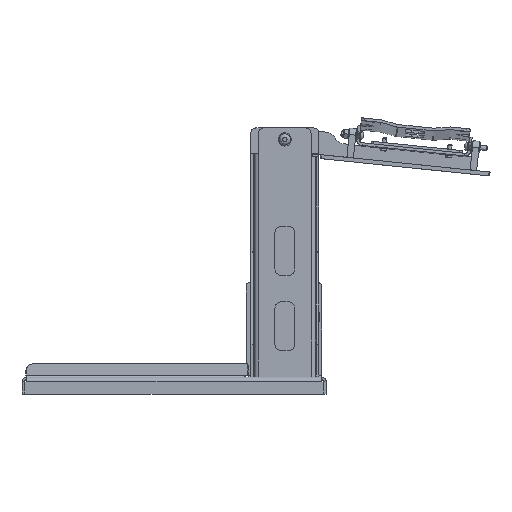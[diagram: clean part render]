
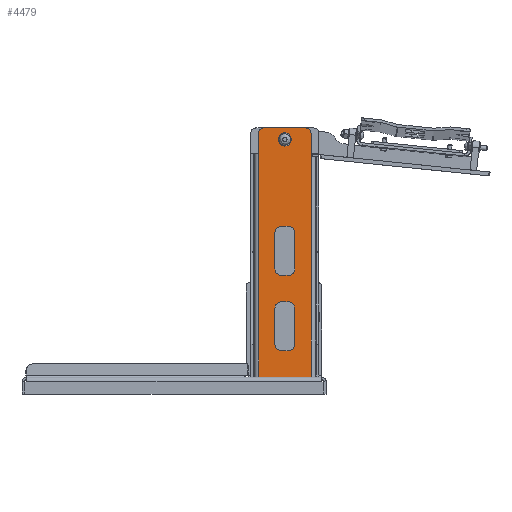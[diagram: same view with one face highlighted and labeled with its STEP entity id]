
A CAD part, front view. The second image highlights one B-rep face of the part: STEP entity #4479.
In plain terms, the highlighted planar face has unit normal (0, -1, 0) as drawn and (0, 1, 0) by its records, which use the part's own axes.
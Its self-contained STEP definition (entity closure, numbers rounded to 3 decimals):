
#4479=ADVANCED_FACE('',(#6761,#6762,#6763,#6764),#6765,.T.);
#6761=FACE_BOUND('',#9486,.T.);
#6762=FACE_BOUND('',#9487,.T.);
#6763=FACE_BOUND('',#9488,.T.);
#6764=FACE_OUTER_BOUND('',#9489,.T.);
#6765=PLANE('',#9490);
#9486=EDGE_LOOP('',(#15364,#15365,#15366,#15367,#15368,#15369,#15370,#15371));
#9487=EDGE_LOOP('',(#15372));
#9488=EDGE_LOOP('',(#15373,#15374,#15375,#15376,#15377,#15378,#15379,#15380));
#9489=EDGE_LOOP('',(#15381,#15382,#15383,#15384,#15385,#15386,#15387,#15388,#15389,#15390,#15391,#15392));
#9490=AXIS2_PLACEMENT_3D('',#15393,#15394,#15395);
#15364=ORIENTED_EDGE('',*,*,#21285,.F.);
#15365=ORIENTED_EDGE('',*,*,#21286,.F.);
#15366=ORIENTED_EDGE('',*,*,#21287,.F.);
#15367=ORIENTED_EDGE('',*,*,#21288,.F.);
#15368=ORIENTED_EDGE('',*,*,#21289,.F.);
#15369=ORIENTED_EDGE('',*,*,#21290,.F.);
#15370=ORIENTED_EDGE('',*,*,#21291,.F.);
#15371=ORIENTED_EDGE('',*,*,#21292,.F.);
#15372=ORIENTED_EDGE('',*,*,#21293,.F.);
#15373=ORIENTED_EDGE('',*,*,#21294,.F.);
#15374=ORIENTED_EDGE('',*,*,#21295,.F.);
#15375=ORIENTED_EDGE('',*,*,#21296,.F.);
#15376=ORIENTED_EDGE('',*,*,#21297,.F.);
#15377=ORIENTED_EDGE('',*,*,#21298,.F.);
#15378=ORIENTED_EDGE('',*,*,#21299,.F.);
#15379=ORIENTED_EDGE('',*,*,#21300,.F.);
#15380=ORIENTED_EDGE('',*,*,#21301,.F.);
#15381=ORIENTED_EDGE('',*,*,#21302,.T.);
#15382=ORIENTED_EDGE('',*,*,#21303,.T.);
#15383=ORIENTED_EDGE('',*,*,#21304,.T.);
#15384=ORIENTED_EDGE('',*,*,#21305,.T.);
#15385=ORIENTED_EDGE('',*,*,#21306,.T.);
#15386=ORIENTED_EDGE('',*,*,#21307,.F.);
#15387=ORIENTED_EDGE('',*,*,#21308,.T.);
#15388=ORIENTED_EDGE('',*,*,#21309,.F.);
#15389=ORIENTED_EDGE('',*,*,#21310,.F.);
#15390=ORIENTED_EDGE('',*,*,#21311,.F.);
#15391=ORIENTED_EDGE('',*,*,#21244,.T.);
#15392=ORIENTED_EDGE('',*,*,#21312,.T.);
#15393=CARTESIAN_POINT('',(150.0,289.0,320.0));
#15394=DIRECTION('',(0.0,1.0,0.0));
#15395=DIRECTION('',(-1.0,0.0,0.0));
#21244=EDGE_CURVE('',#24836,#24837,#24838,.T.);
#21285=EDGE_CURVE('',#24913,#24914,#24915,.T.);
#21286=EDGE_CURVE('',#24916,#24913,#24917,.T.);
#21287=EDGE_CURVE('',#24918,#24916,#24919,.T.);
#21288=EDGE_CURVE('',#24920,#24918,#24921,.T.);
#21289=EDGE_CURVE('',#24922,#24920,#24923,.T.);
#21290=EDGE_CURVE('',#24924,#24922,#24925,.T.);
#21291=EDGE_CURVE('',#24926,#24924,#24927,.T.);
#21292=EDGE_CURVE('',#24914,#24926,#24928,.T.);
#21293=EDGE_CURVE('',#24929,#24929,#24930,.T.);
#21294=EDGE_CURVE('',#24931,#24932,#24933,.T.);
#21295=EDGE_CURVE('',#24934,#24931,#24935,.T.);
#21296=EDGE_CURVE('',#24936,#24934,#24937,.T.);
#21297=EDGE_CURVE('',#24938,#24936,#24939,.T.);
#21298=EDGE_CURVE('',#24940,#24938,#24941,.T.);
#21299=EDGE_CURVE('',#24942,#24940,#24943,.T.);
#21300=EDGE_CURVE('',#24944,#24942,#24945,.T.);
#21301=EDGE_CURVE('',#24932,#24944,#24946,.T.);
#21302=EDGE_CURVE('',#24947,#24948,#24949,.T.);
#21303=EDGE_CURVE('',#24948,#24950,#24951,.T.);
#21304=EDGE_CURVE('',#24950,#24952,#24953,.F.);
#21305=EDGE_CURVE('',#24952,#24954,#24955,.T.);
#21306=EDGE_CURVE('',#24954,#24956,#24957,.F.);
#21307=EDGE_CURVE('',#24958,#24956,#24959,.T.);
#21308=EDGE_CURVE('',#24958,#24960,#24961,.T.);
#21309=EDGE_CURVE('',#24962,#24960,#24963,.T.);
#21310=EDGE_CURVE('',#24964,#24962,#24965,.T.);
#21311=EDGE_CURVE('',#24836,#24964,#24966,.T.);
#21312=EDGE_CURVE('',#24837,#24947,#24967,.T.);
#24836=VERTEX_POINT('',#30299);
#24837=VERTEX_POINT('',#30300);
#24838=LINE('',#30301,#30302);
#24913=VERTEX_POINT('',#30489);
#24914=VERTEX_POINT('',#30490);
#24915=LINE('',#30491,#30492);
#24916=VERTEX_POINT('',#30493);
#24917=CIRCLE('',#30494,10.0);
#24918=VERTEX_POINT('',#30495);
#24919=LINE('',#30496,#30497);
#24920=VERTEX_POINT('',#30498);
#24921=CIRCLE('',#30499,10.0);
#24922=VERTEX_POINT('',#30500);
#24923=LINE('',#30501,#30502);
#24924=VERTEX_POINT('',#30503);
#24925=CIRCLE('',#30504,10.0);
#24926=VERTEX_POINT('',#30505);
#24927=LINE('',#30506,#30507);
#24928=CIRCLE('',#30508,10.0);
#24929=VERTEX_POINT('',#30509);
#24930=CIRCLE('',#30510,5.0);
#24931=VERTEX_POINT('',#30511);
#24932=VERTEX_POINT('',#30512);
#24933=LINE('',#30513,#30514);
#24934=VERTEX_POINT('',#30515);
#24935=CIRCLE('',#30516,10.0);
#24936=VERTEX_POINT('',#30517);
#24937=LINE('',#30518,#30519);
#24938=VERTEX_POINT('',#30520);
#24939=CIRCLE('',#30521,10.0);
#24940=VERTEX_POINT('',#30522);
#24941=LINE('',#30523,#30524);
#24942=VERTEX_POINT('',#30525);
#24943=CIRCLE('',#30526,10.0);
#24944=VERTEX_POINT('',#30527);
#24945=LINE('',#30528,#30529);
#24946=CIRCLE('',#30530,10.0);
#24947=VERTEX_POINT('',#30531);
#24948=VERTEX_POINT('',#30532);
#24949=LINE('',#30533,#30534);
#24950=VERTEX_POINT('',#30535);
#24951=CIRCLE('',#30536,8.0);
#24952=VERTEX_POINT('',#30537);
#24953=LINE('',#30538,#30539);
#24954=VERTEX_POINT('',#30540);
#24955=CIRCLE('',#30541,8.0);
#24956=VERTEX_POINT('',#30542);
#24957=LINE('',#30543,#30544);
#24958=VERTEX_POINT('',#30545);
#24959=LINE('',#30546,#30547);
#24960=VERTEX_POINT('',#30548);
#24961=LINE('',#30549,#30550);
#24962=VERTEX_POINT('',#30551);
#24963=LINE('',#30552,#30553);
#24964=VERTEX_POINT('',#30554);
#24965=LINE('',#30555,#30556);
#24966=LINE('',#30557,#30558);
#24967=LINE('',#30559,#30560);
#30299=CARTESIAN_POINT('',(140.0,289.0,320.0));
#30300=CARTESIAN_POINT('',(110.0,289.0,320.0));
#30301=CARTESIAN_POINT('',(150.0,289.0,320.0));
#30302=VECTOR('',#36394,1.0);
#30489=CARTESIAN_POINT('',(155.0,289.0,360.));
#30490=CARTESIAN_POINT('',(145.0,289.0,360.));
#30491=CARTESIAN_POINT('',(150.0,289.0,360.));
#30492=VECTOR('',#36419,1.0);
#30493=CARTESIAN_POINT('',(165.0,289.0,370.));
#30494=AXIS2_PLACEMENT_3D('',#36420,#36421,#36422);
#30495=CARTESIAN_POINT('',(165.0,289.0,425.));
#30496=CARTESIAN_POINT('',(165.0,289.0,397.5));
#30497=VECTOR('',#36423,1.0);
#30498=CARTESIAN_POINT('',(155.0,289.0,435.));
#30499=AXIS2_PLACEMENT_3D('',#36424,#36425,#36426);
#30500=CARTESIAN_POINT('',(145.0,289.0,435.));
#30501=CARTESIAN_POINT('',(150.0,289.0,435.));
#30502=VECTOR('',#36427,1.0);
#30503=CARTESIAN_POINT('',(135.0,289.0,425.));
#30504=AXIS2_PLACEMENT_3D('',#36428,#36429,#36430);
#30505=CARTESIAN_POINT('',(135.0,289.0,370.));
#30506=CARTESIAN_POINT('',(135.0,289.0,397.5));
#30507=VECTOR('',#36431,1.0);
#30508=AXIS2_PLACEMENT_3D('',#36432,#36433,#36434);
#30509=CARTESIAN_POINT('',(145.0,289.0,682.5));
#30510=AXIS2_PLACEMENT_3D('',#36435,#36436,#36437);
#30511=CARTESIAN_POINT('',(155.0,289.0,475.));
#30512=CARTESIAN_POINT('',(145.0,289.0,475.));
#30513=CARTESIAN_POINT('',(150.0,289.0,475.));
#30514=VECTOR('',#36438,1.0);
#30515=CARTESIAN_POINT('',(165.0,289.0,485.));
#30516=AXIS2_PLACEMENT_3D('',#36439,#36440,#36441);
#30517=CARTESIAN_POINT('',(165.0,289.0,540.));
#30518=CARTESIAN_POINT('',(165.0,289.0,512.5));
#30519=VECTOR('',#36442,1.0);
#30520=CARTESIAN_POINT('',(155.0,289.0,550.));
#30521=AXIS2_PLACEMENT_3D('',#36443,#36444,#36445);
#30522=CARTESIAN_POINT('',(145.0,289.0,550.));
#30523=CARTESIAN_POINT('',(150.0,289.0,550.));
#30524=VECTOR('',#36446,1.0);
#30525=CARTESIAN_POINT('',(135.0,289.0,540.));
#30526=AXIS2_PLACEMENT_3D('',#36447,#36448,#36449);
#30527=CARTESIAN_POINT('',(135.0,289.0,485.));
#30528=CARTESIAN_POINT('',(135.0,289.0,512.5));
#30529=VECTOR('',#36450,1.0);
#30530=AXIS2_PLACEMENT_3D('',#36451,#36452,#36453);
#30531=CARTESIAN_POINT('',(110.0,289.0,656.0));
#30532=CARTESIAN_POINT('',(110.0,289.0,692.0));
#30533=CARTESIAN_POINT('',(110.0,289.0,320.0));
#30534=VECTOR('',#36454,1.0);
#30535=CARTESIAN_POINT('',(118.0,289.0,700.0));
#30536=AXIS2_PLACEMENT_3D('',#36455,#36456,#36457);
#30537=CARTESIAN_POINT('',(182.0,289.0,700.0));
#30538=CARTESIAN_POINT('',(150.0,289.0,700.0));
#30539=VECTOR('',#36458,1.0);
#30540=CARTESIAN_POINT('',(190.0,289.0,692.0));
#30541=AXIS2_PLACEMENT_3D('',#36459,#36460,#36461);
#30542=CARTESIAN_POINT('',(190.0,289.0,661.0));
#30543=CARTESIAN_POINT('',(190.0,289.0,320.0));
#30544=VECTOR('',#36462,1.0);
#30545=CARTESIAN_POINT('',(190.0,289.0,320.0));
#30546=CARTESIAN_POINT('',(190.0,289.0,320.0));
#30547=VECTOR('',#36463,1.0);
#30548=CARTESIAN_POINT('',(160.0,289.0,320.0));
#30549=CARTESIAN_POINT('',(150.0,289.0,320.0));
#30550=VECTOR('',#36464,1.0);
#30551=CARTESIAN_POINT('',(160.0,289.0,317.0));
#30552=CARTESIAN_POINT('',(160.0,289.0,317.0));
#30553=VECTOR('',#36465,1.0);
#30554=CARTESIAN_POINT('',(140.0,289.0,317.0));
#30555=CARTESIAN_POINT('',(140.0,289.0,317.0));
#30556=VECTOR('',#36466,1.0);
#30557=CARTESIAN_POINT('',(140.0,289.0,320.0));
#30558=VECTOR('',#36467,1.0);
#30559=CARTESIAN_POINT('',(110.0,289.0,320.0));
#30560=VECTOR('',#36468,1.0);
#36394=DIRECTION('',(-1.0,0.0,0.0));
#36419=DIRECTION('',(-1.0,0.0,0.0));
#36420=CARTESIAN_POINT('',(155.0,289.0,370.));
#36421=DIRECTION('',(0.0,1.0,0.0));
#36422=DIRECTION('',(-1.0,0.0,0.0));
#36423=DIRECTION('',(0.,0.0,-1.0));
#36424=CARTESIAN_POINT('',(155.0,289.0,425.));
#36425=DIRECTION('',(0.0,1.0,0.0));
#36426=DIRECTION('',(-1.0,0.0,0.0));
#36427=DIRECTION('',(1.0,0.0,0.));
#36428=CARTESIAN_POINT('',(145.0,289.0,425.));
#36429=DIRECTION('',(0.0,1.0,0.0));
#36430=DIRECTION('',(-1.0,0.0,0.0));
#36431=DIRECTION('',(0.,0.0,1.0));
#36432=CARTESIAN_POINT('',(145.0,289.0,370.));
#36433=DIRECTION('',(0.0,1.0,0.0));
#36434=DIRECTION('',(-1.0,0.0,0.0));
#36435=CARTESIAN_POINT('',(150.0,289.0,682.5));
#36436=DIRECTION('',(0.0,1.0,0.0));
#36437=DIRECTION('',(-1.0,0.0,0.0));
#36438=DIRECTION('',(-1.0,0.0,0.0));
#36439=CARTESIAN_POINT('',(155.0,289.0,485.));
#36440=DIRECTION('',(0.0,1.0,0.0));
#36441=DIRECTION('',(-1.0,0.0,0.0));
#36442=DIRECTION('',(0.,0.0,-1.0));
#36443=CARTESIAN_POINT('',(155.0,289.0,540.));
#36444=DIRECTION('',(0.0,1.0,0.0));
#36445=DIRECTION('',(-1.0,0.0,0.0));
#36446=DIRECTION('',(1.0,0.0,0.));
#36447=CARTESIAN_POINT('',(145.0,289.0,540.));
#36448=DIRECTION('',(0.0,1.0,0.0));
#36449=DIRECTION('',(-1.0,0.0,0.0));
#36450=DIRECTION('',(0.,0.0,1.0));
#36451=CARTESIAN_POINT('',(145.0,289.0,485.));
#36452=DIRECTION('',(0.0,1.0,0.0));
#36453=DIRECTION('',(-1.0,0.0,0.0));
#36454=DIRECTION('',(0.0,0.0,1.0));
#36455=CARTESIAN_POINT('',(118.0,289.0,692.0));
#36456=DIRECTION('',(0.0,1.0,0.0));
#36457=DIRECTION('',(0.0,0.0,1.0));
#36458=DIRECTION('',(-1.0,0.0,0.0));
#36459=CARTESIAN_POINT('',(182.0,289.0,692.0));
#36460=DIRECTION('',(0.0,1.0,0.0));
#36461=DIRECTION('',(0.0,0.0,1.0));
#36462=DIRECTION('',(0.0,0.0,1.0));
#36463=DIRECTION('',(0.,0.0,1.0));
#36464=DIRECTION('',(-1.0,0.0,0.0));
#36465=DIRECTION('',(0.0,0.,1.0));
#36466=DIRECTION('',(1.0,0.0,0.0));
#36467=DIRECTION('',(0.0,0.,-1.0));
#36468=DIRECTION('',(0.0,0.0,1.0));
